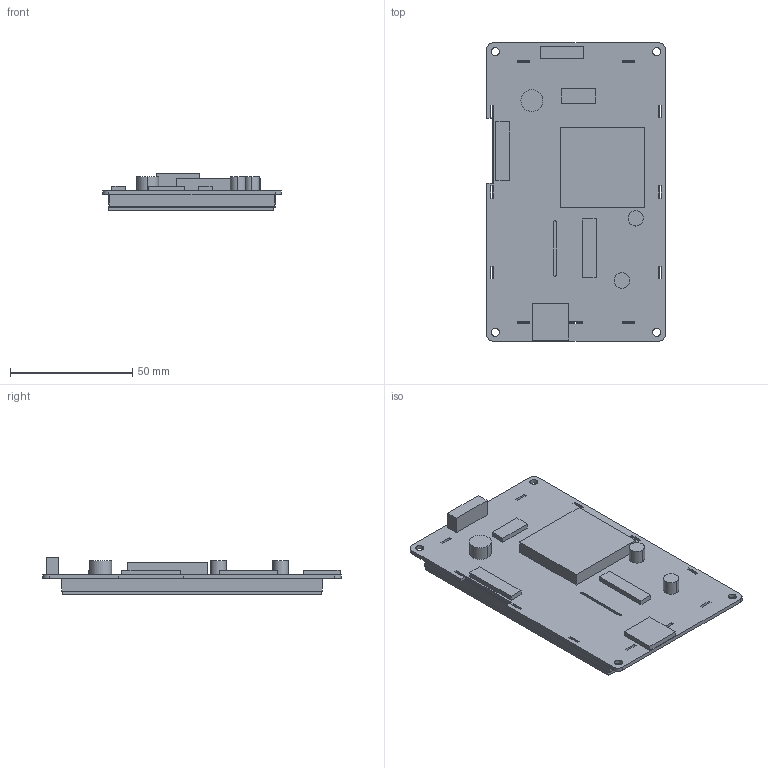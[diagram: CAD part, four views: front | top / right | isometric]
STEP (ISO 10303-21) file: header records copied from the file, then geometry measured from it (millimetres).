
FILE_DESCRIPTION((''),'2;1');
FILE_NAME('DMG48270C043-04WTR','2022-01-04T',('Administrator'),(''),'PRO/ENGINEER BY PARAMETRIC TECHNOLOGY CORPORATION, 2011310','PRO/ENGINEER BY PARAMETRIC TECHNOLOGY CORPORATION, 2011310','');
FILE_SCHEMA(('CONFIG_CONTROL_DESIGN','SHAPE_APPEARANCE_LAYERS_GROUPS'));
Length unit declared in the file: millimetre
Products named in the file (1): DMG48270C043-04WTR
Bounding box: 73.15 x 121.92 x 15.3 mm (x, y, z)
Volume: 54001.6 mm3; surface area: 50958.7 mm2
Topology: 1 solids, 2 shells, 159 faces, 430 edges, 278 vertices
Faces by surface type: plane 139, cylinder 20
Entity records: 5973 total; most frequent: CARTESIAN_POINT 867, ORIENTED_EDGE 860, DIRECTION 788, EDGE_CURVE 430, VECTOR 390, LINE 390, VERTEX_POINT 278, AXIS2_PLACEMENT_3D 199
